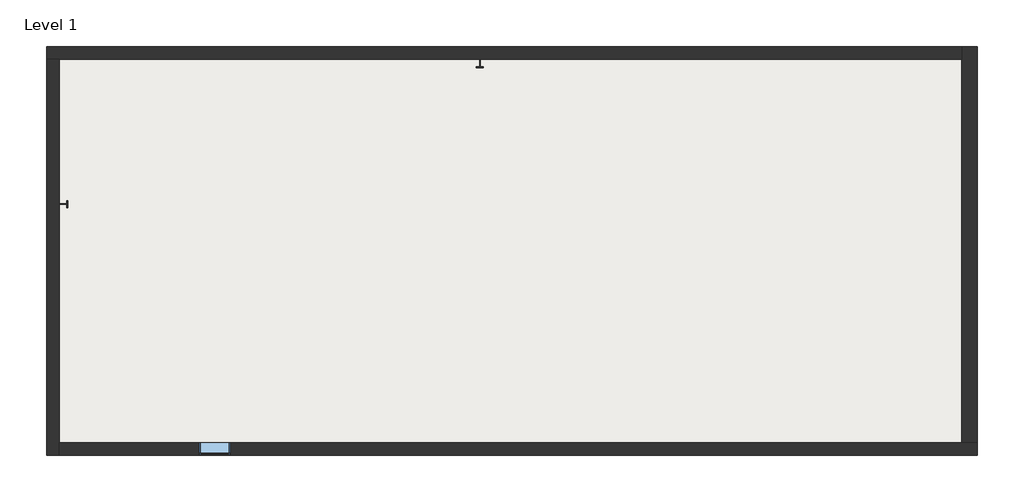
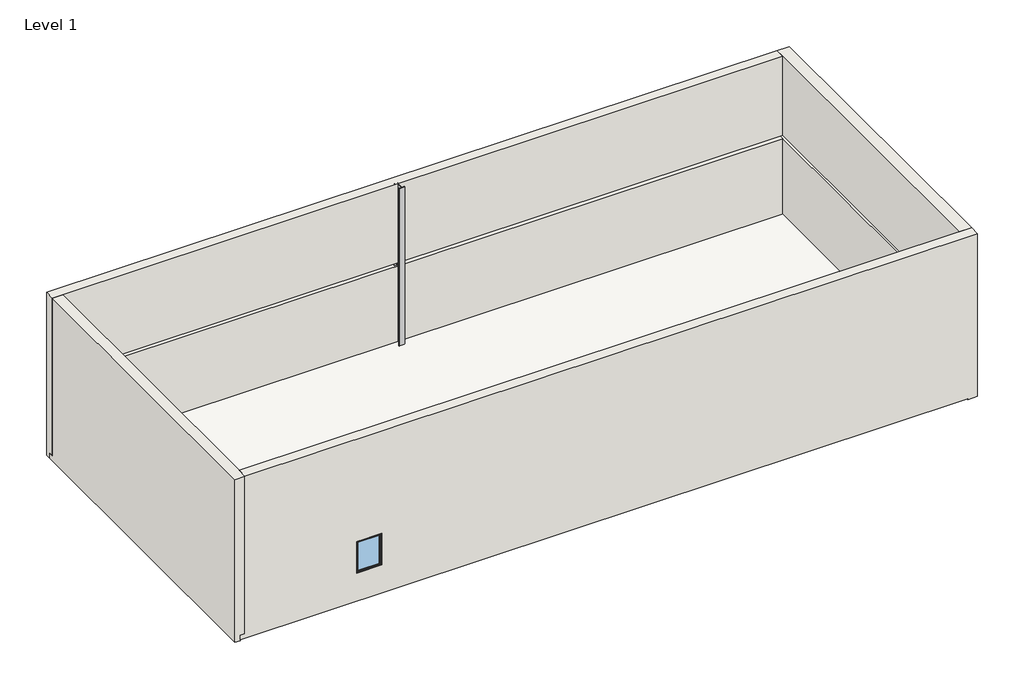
# One storey: 4 walls, 2 columns, 1 slab, 1 window.
"""IFC4 building model written with IfcOpenShell, lengths in millimetres."""

from ifc_helpers import new_model, si_unit, origin, place, context, project, spatial, faceted_brep, transform, mapped, element, save
from components import w_wide_flange_column_w12x50_748911cc, w_wide_flange_column_w12x50_abcd480c, window_dc516872

model = new_model("IFC4")

# Units and contexts
model_context = context("Model", 3, world=origin())
ifc_project = project(units=[si_unit("LENGTHUNIT", "METRE", prefix="MILLI")], contexts=[model_context])

# Site, building, storey
site = spatial("IfcSite", under=ifc_project)
building = spatial("IfcBuilding", under=site)
storey = spatial("IfcBuildingStorey", under=building, Name="Level 1", Elevation=0.0)

# Columns
placement = place(None, origin())
w_wide_flange_column_w12x50_shape = w_wide_flange_column_w12x50_748911cc(model_context)
element("IfcColumn", 1, ObjectType="W-Wide Flange-Column : W12X50", at=placement, inside=storey, context=model_context, shape_type="MappedRepresentation", body=[
    mapped(w_wide_flange_column_w12x50_shape, transform((-15550.7336494, 3911.1134644, 0.0), x_axis=(0.0, 1.0, 0.0), y_axis=(-1.0, 0.0, 0.0), z_axis=(0.0, 0.0, 1.0))),
])
w_wide_flange_column_w12x50_2_shape = w_wide_flange_column_w12x50_abcd480c(model_context)
element("IfcColumn", 2, ObjectType="W-Wide Flange-Column : W12X50", at=placement, inside=storey, context=model_context, shape_type="MappedRepresentation", body=[
    mapped(w_wide_flange_column_w12x50_2_shape, transform((-3358.7336494, 8051.3134644, 0.0), x_axis=(1.0, 0.0, 0.0), y_axis=(0.0, 1.0, 0.0), z_axis=(0.0, 0.0, 1.0))),
])

# Slab
element("IfcSlab", 3, ObjectType="4\" Insulated Concrete Slab on Grade", at=placement, inside=storey, context=model_context, shape_type="Brep", body=[
    faceted_brep([(10963.6913506, 8305.3134644, -177.8), (10963.6913506, 8152.9134644, -177.8), (10963.6913506, -3223.1115356, -177.8), (10811.2913506, -3223.1115356, -177.8), (-15804.7336494, -3223.1115356, -177.8), (-15804.7336494, -3070.7115356, -177.8), (-15804.7336494, 8152.9134644, -177.8), (-15804.7336494, 8305.3134644, -177.8), (10963.6913506, 8305.3134644, 0.0), (10712.8663506, 8305.3134644, 0.0), (-15804.7336494, 8305.3134644, 0.0), (-15804.7336494, 8137.0384644, 0.0), (-15804.7336494, -3223.1115356, 0.0), (-15636.4586494, -3223.1115356, 0.0), (10963.6913506, -3223.1115356, 0.0), (10963.6913506, -3054.8365356, 0.0)], [[[0, 1, 2, 3, 4, 5, 6, 7]], [[8, 9, 10, 11, 12, 13, 14, 15]], [[2, 1, 0, 8, 15, 14]], [[4, 3, 2, 14, 13, 12]], [[7, 6, 5, 4, 12, 11, 10]], [[0, 7, 10, 9, 8]]]),
])

# Walls
element("IfcWall", 4, ObjectType="Exterior - Brick on CMU", at=placement, inside=storey, context=model_context, shape_type="Brep", body=[
    faceted_brep([(10712.8663506, -3054.8365356, 6096.0), (10712.8663506, 8137.0384644, 6096.0), (10712.8663506, 8508.5134644, 6096.0), (10712.8663506, 8508.5134644, 0.0), (10712.8663506, 8305.3134644, 0.0), (10712.8663506, 8137.0384644, 0.0), (10712.8663506, -3054.8365356, 0.0), (10712.8663506, -3054.8365356, 2921.0), (10712.8663506, 8137.0384644, 2921.0), (10712.8663506, 8305.3134644, 2921.0), (10712.8663506, 8305.3134644, 3048.0), (10712.8663506, 8137.0384644, 3048.0), (10712.8663506, -3054.8365356, 3048.0), (11166.8913506, 8508.5134644, 6096.0), (11166.8913506, -3054.8365356, 6096.0), (11166.8913506, -3054.8365356, 0.0), (11166.8913506, -3223.1115356, 0.0), (11166.8913506, -3223.1115356, -203.2), (11166.8913506, 8508.5134644, -203.2), (10963.6913506, 8508.5134644, -203.2), (10963.6913506, 8508.5134644, 0.0), (10963.6913506, -3054.8365356, 3048.0), (10963.6913506, -3054.8365356, 2921.0), (10963.6913506, -3054.8365356, 0.0), (10963.6913506, 8305.3134644, 0.0), (10963.6913506, 8305.3134644, -203.2), (10963.6913506, -3223.1115356, -203.2), (10963.6913506, -3223.1115356, -177.8), (10963.6913506, -3223.1115356, 0.0), (10963.6913506, 8305.3134644, 2921.0), (10963.6913506, 8305.3134644, 3048.0)], [[[0, 1, 2, 3, 4, 5, 6, 7, 8, 9, 10, 11, 12]], [[13, 14, 15, 16, 17, 18]], [[2, 1, 0, 14, 13]], [[3, 2, 13, 18, 19, 20]], [[14, 0, 12, 21, 22, 7, 6, 23, 15]], [[23, 6, 5, 4, 3, 20, 24]], [[20, 19, 25, 26, 27, 28, 23, 24]], [[19, 18, 17, 26, 25]], [[16, 15, 23, 28]], [[26, 17, 16, 28, 27]], [[29, 9, 8, 7, 22]], [[30, 21, 12, 11, 10]], [[30, 29, 22, 21]], [[29, 30, 10, 9]]]),
])
element("IfcWall", 5, ObjectType="Exterior - Brick on Rainscreen on Mtl. Stud", at=placement, inside=storey, context=model_context, shape_type="Brep", body=[
    faceted_brep([(10712.8663506, 8137.0384644, 6096.0), (-15636.4586494, 8137.0384644, 6096.0), (-16007.9336494, 8137.0384644, 6096.0), (-16007.9336494, 8137.0384644, 0.0), (-15804.7336494, 8137.0384644, 0.0), (-15636.4586494, 8137.0384644, 0.0), (10712.8663506, 8137.0384644, 0.0), (10712.8663506, 8137.0384644, 2921.0), (-15636.4586494, 8137.0384644, 2921.0), (-15804.7336494, 8137.0384644, 2921.0), (-15804.7336494, 8137.0384644, 3048.0), (-15636.4586494, 8137.0384644, 3048.0), (10712.8663506, 8137.0384644, 3048.0), (-16007.9336494, 8508.5134644, 6096.0), (10712.8663506, 8508.5134644, 6096.0), (10712.8663506, 8508.5134644, 0.0), (10963.6913506, 8508.5134644, 0.0), (10963.6913506, 8508.5134644, -203.2), (-16007.9336494, 8508.5134644, -203.2), (-16007.9336494, 8305.3134644, -203.2), (-16007.9336494, 8305.3134644, 0.0), (10712.8663506, 8305.3134644, 3048.0), (10712.8663506, 8305.3134644, 2921.0), (10712.8663506, 8305.3134644, 0.0), (-15804.7336494, 8305.3134644, 0.0), (-15804.7336494, 8305.3134644, -203.2), (10963.6913506, 8305.3134644, -203.2), (10963.6913506, 8305.3134644, -177.8), (10963.6913506, 8305.3134644, 0.0), (-15804.7336494, 8305.3134644, 2921.0), (-15804.7336494, 8305.3134644, 3048.0)], [[[0, 1, 2, 3, 4, 5, 6, 7, 8, 9, 10, 11, 12]], [[13, 14, 15, 16, 17, 18]], [[2, 1, 0, 14, 13]], [[3, 2, 13, 18, 19, 20]], [[14, 0, 12, 21, 22, 7, 6, 23, 15]], [[23, 6, 5, 4, 3, 20, 24]], [[20, 19, 25, 26, 27, 28, 23, 24]], [[19, 18, 17, 26, 25]], [[16, 15, 23, 28]], [[26, 17, 16, 28, 27]], [[22, 29, 9, 8, 7]], [[10, 30, 21, 12, 11]], [[29, 30, 10, 9]], [[30, 29, 22, 21]]]),
])
element("IfcWall", 6, ObjectType="Exterior - Brick on Rainscreen on Mtl. Stud", at=placement, inside=storey, context=model_context, shape_type="Brep", body=[
    faceted_brep([(-15636.4586494, 8137.0384644, 6096.0), (-15636.4586494, -3054.8365356, 6096.0), (-15636.4586494, -3426.3115356, 6096.0), (-15636.4586494, -3426.3115356, 0.0), (-15636.4586494, -3223.1115356, 0.0), (-15636.4586494, -3054.8365356, 0.0), (-15636.4586494, 8137.0384644, 0.0), (-15636.4586494, 8137.0384644, 2921.0), (-15636.4586494, -3223.1115356, 2921.0), (-15636.4586494, -3223.1115356, 3048.0), (-15636.4586494, 8137.0384644, 3048.0), (-16007.9336494, -3426.3115356, 6096.0), (-16007.9336494, 8137.0384644, 6096.0), (-16007.9336494, 8137.0384644, 0.0), (-16007.9336494, 8305.3134644, 0.0), (-16007.9336494, 8305.3134644, -203.2), (-16007.9336494, -3426.3115356, -203.2), (-15804.7336494, -3426.3115356, -203.2), (-15804.7336494, -3426.3115356, 0.0), (-15804.7336494, 8137.0384644, 3048.0), (-15804.7336494, 8137.0384644, 2921.0), (-15804.7336494, 8137.0384644, 0.0), (-15804.7336494, -3223.1115356, 0.0), (-15804.7336494, -3223.1115356, -203.2), (-15804.7336494, 8305.3134644, -203.2), (-15804.7336494, 8305.3134644, -177.8), (-15804.7336494, 8305.3134644, 0.0), (-15804.7336494, -3223.1115356, 2921.0), (-15804.7336494, -3223.1115356, 3048.0)], [[[0, 1, 2, 3, 4, 5, 6, 7, 8, 9, 10]], [[11, 12, 13, 14, 15, 16]], [[2, 1, 0, 12, 11]], [[3, 2, 11, 16, 17, 18]], [[12, 0, 10, 19, 20, 7, 6, 21, 13]], [[21, 6, 5, 4, 3, 18, 22]], [[18, 17, 23, 24, 25, 26, 21, 22]], [[17, 16, 15, 24, 23]], [[14, 13, 21, 26]], [[24, 15, 14, 26, 25]], [[20, 27, 8, 7]], [[9, 28, 19, 10]], [[27, 28, 9, 8]], [[28, 27, 20, 19]]]),
])
element("IfcWall", 7, ObjectType="Exterior - Brick on Rainscreen on Mtl. Stud", at=placement, inside=storey, context=model_context, shape_type="Brep", body=[
    faceted_brep([(-15636.4586494, -3054.8365356, 6096.0), (10712.8663506, -3054.8365356, 6096.0), (11166.8913506, -3054.8365356, 6096.0), (11166.8913506, -3054.8365356, 0.0), (10963.6913506, -3054.8365356, 0.0), (10712.8663506, -3054.8365356, 0.0), (-15636.4586494, -3054.8365356, 0.0), (-15636.4586494, -3054.8365356, 2921.0), (10712.8663506, -3054.8365356, 2921.0), (10963.6913506, -3054.8365356, 2921.0), (10963.6913506, -3054.8365356, 3048.0), (10712.8663506, -3054.8365356, 3048.0), (-15636.4586494, -3054.8365356, 3048.0), (-11554.9961494, -3054.8365356, 2133.6), (-11554.9961494, -3054.8365356, 914.4), (-10640.5961494, -3054.8365356, 914.4), (-10640.5961494, -3054.8365356, 2133.6), (11166.8913506, -3426.3115356, 6096.0), (-15636.4586494, -3426.3115356, 6096.0), (-15636.4586494, -3426.3115356, 0.0), (-15804.7336494, -3426.3115356, 0.0), (-15804.7336494, -3426.3115356, -177.8), (10811.2913506, -3426.3115356, -177.8), (10811.2913506, -3426.3115356, -203.2), (11166.8913506, -3426.3115356, -203.2), (-11554.9961494, -3426.3115356, 914.4), (-11554.9961494, -3426.3115356, 2133.6), (-10640.5961494, -3426.3115356, 2133.6), (-10640.5961494, -3426.3115356, 914.4), (11166.8913506, -3223.1115356, -203.2), (11166.8913506, -3223.1115356, 0.0), (-15636.4586494, -3223.1115356, 3048.0), (-15636.4586494, -3223.1115356, 2921.0), (-15636.4586494, -3223.1115356, 0.0), (10963.6913506, -3223.1115356, 0.0), (10963.6913506, -3223.1115356, -203.2), (10811.2913506, -3223.1115356, -203.2), (10811.2913506, -3223.1115356, -177.8), (-15804.7336494, -3223.1115356, -177.8), (-15804.7336494, -3223.1115356, 0.0), (10963.6913506, -3223.1115356, 2921.0), (10963.6913506, -3223.1115356, 3048.0)], [[[0, 1, 2, 3, 4, 5, 6, 7, 8, 9, 10, 11, 12], [13, 14, 15, 16]], [[17, 18, 19, 20, 21, 22, 23, 24], [25, 26, 27, 28]], [[2, 1, 0, 18, 17]], [[3, 2, 17, 24, 29, 30]], [[18, 0, 12, 31, 32, 7, 6, 33, 19]], [[33, 6, 5, 4, 3, 30, 34]], [[30, 29, 35, 36, 37, 38, 39, 33, 34]], [[29, 24, 23, 36, 35]], [[20, 19, 33, 39]], [[20, 39, 38, 21]], [[32, 40, 9, 8, 7]], [[10, 41, 31, 12, 11]], [[40, 41, 10, 9]], [[41, 40, 32, 31]], [[23, 22, 37, 36]], [[37, 22, 21, 38]], [[14, 13, 26, 25]], [[15, 14, 25, 28]], [[16, 15, 28, 27]], [[13, 16, 27, 26]]]),
])

# Window
window_shape = window_dc516872(model_context)
element("IfcWindow", 8, ObjectType="Fixed : 36\" x 48\"", at=placement, inside=storey, context=model_context, shape_type="MappedRepresentation", body=[
    mapped(window_shape, transform((-11135.8961494, -3240.5740356, 0.0), x_axis=(-1.0, 0.0, 0.0), y_axis=(0.0, -1.0, 0.0), z_axis=(0.0, 0.0, 1.0))),
])

save(model, "model.ifc")
